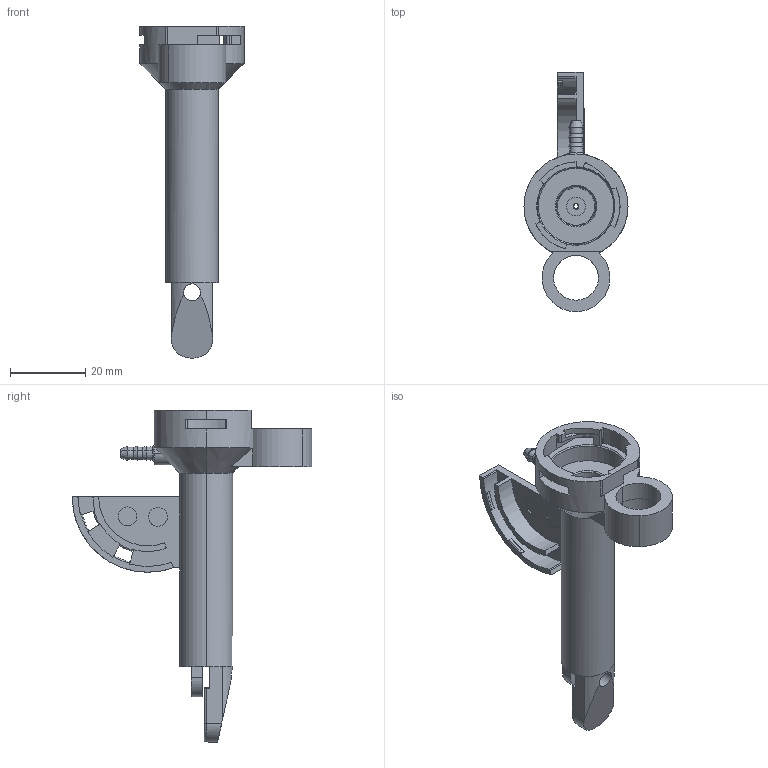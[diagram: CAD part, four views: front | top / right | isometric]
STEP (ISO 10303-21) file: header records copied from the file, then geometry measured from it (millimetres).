
FILE_DESCRIPTION(('CATIA V5 STEP Exchange'),'2;1');
FILE_NAME('C:\Users\Administrator\Desktop\拉线盖板\方案2\补偿气缸.stp','2021-10-23T02:58:40+00:00',('none'),('none'),'CATIA Version 5 Release 20 GA (IN-10)','CATIA V5 STEP AP214','none');
FILE_SCHEMA(('AUTOMOTIVE_DESIGN { 1 0 10303 214 1 1 1 1 }'));
Length unit declared in the file: millimetre
Products named in the file (1): BPC0010084
Bounding box: 27.6 x 63.49 x 88 mm (x, y, z)
Volume: 11751.1 mm3; surface area: 10882.3 mm2
Topology: 1 solids, 1 shells, 1274 faces, 3728 edges, 2474 vertices
Faces by surface type: plane 1127, cylinder 89, cone 26, torus 20, extrusion 6, bspline 4, sphere 2
Entity records: 50241 total; most frequent: CARTESIAN_POINT 8390, ORIENTED_EDGE 7454, DIRECTION 5962, EDGE_CURVE 3727, VECTOR 3404, LINE 3398, VERTEX_POINT 2474, AXIS2_PLACEMENT_3D 1404
